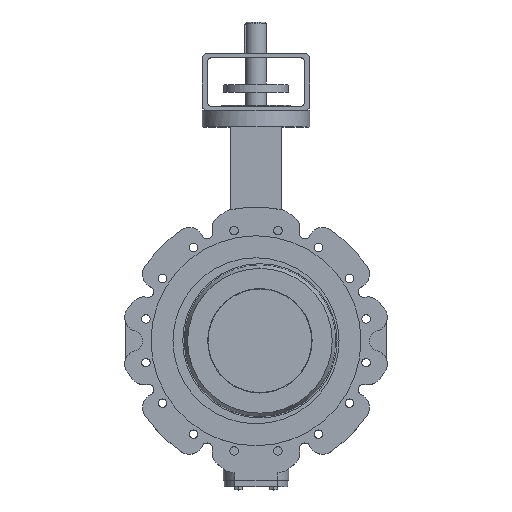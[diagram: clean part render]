
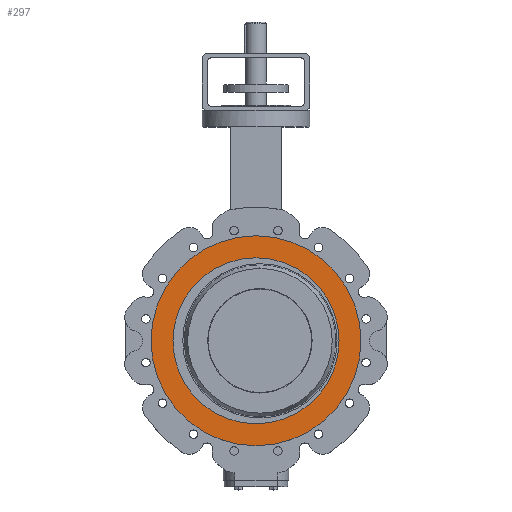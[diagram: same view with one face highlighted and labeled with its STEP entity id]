
A CAD part, top view. The second image highlights one B-rep face of the part: STEP entity #297.
In plain terms, the highlighted planar face has unit normal (0, 0, 1).
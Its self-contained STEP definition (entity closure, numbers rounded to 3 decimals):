
#297 = ADVANCED_FACE( '', ( #844, #845 ), #846, .T. );
#844 = FACE_BOUND( '', #1496, .T. );
#845 = FACE_OUTER_BOUND( '', #1497, .T. );
#846 = PLANE( '', #1498 );
#1496 = EDGE_LOOP( '', ( #3386, #3387, #3388 ) );
#1497 = EDGE_LOOP( '', ( #3389, #3390 ) );
#1498 = AXIS2_PLACEMENT_3D( '', #3391, #3392, #3393 );
#3386 = ORIENTED_EDGE( '', *, *, #4082, .F. );
#3387 = ORIENTED_EDGE( '', *, *, #4081, .F. );
#3388 = ORIENTED_EDGE( '', *, *, #4657, .F. );
#3389 = ORIENTED_EDGE( '', *, *, #4088, .T. );
#3390 = ORIENTED_EDGE( '', *, *, #4655, .T. );
#3391 = CARTESIAN_POINT( '', ( 0., 192.5, 63.5 ) );
#3392 = DIRECTION( '', ( 0., 0., 1. ) );
#3393 = DIRECTION( '', ( 0., 1., 0. ) );
#4081 = EDGE_CURVE( '', #4850, #4853, #4854, .T. );
#4082 = EDGE_CURVE( '', #4853, #4855, #4856, .T. );
#4088 = EDGE_CURVE( '', #4861, #4865, #4867, .T. );
#4655 = EDGE_CURVE( '', #4865, #4861, #5809, .T. );
#4657 = EDGE_CURVE( '', #4855, #4850, #5811, .T. );
#4850 = VERTEX_POINT( '', #6132 );
#4853 = VERTEX_POINT( '', #6136 );
#4854 = CIRCLE( '', #6137, 170. );
#4855 = VERTEX_POINT( '', #6138 );
#4856 = CIRCLE( '', #6139, 170. );
#4861 = VERTEX_POINT( '', #6145 );
#4865 = VERTEX_POINT( '', #6150 );
#4867 = CIRCLE( '', #6153, 215. );
#5809 = CIRCLE( '', #8005, 215. );
#5811 = CIRCLE( '', #8007, 170. );
#6132 = CARTESIAN_POINT( '', ( 170., 0., 63.5 ) );
#6136 = CARTESIAN_POINT( '', ( 0., 170., 63.5 ) );
#6137 = AXIS2_PLACEMENT_3D( '', #8511, #8512, #8513 );
#6138 = CARTESIAN_POINT( '', ( -170., 0., 63.5 ) );
#6139 = AXIS2_PLACEMENT_3D( '', #8514, #8515, #8516 );
#6145 = CARTESIAN_POINT( '', ( 0., 215., 63.5 ) );
#6150 = CARTESIAN_POINT( '', ( 0., -215., 63.5 ) );
#6153 = AXIS2_PLACEMENT_3D( '', #8526, #8527, #8528 );
#8005 = AXIS2_PLACEMENT_3D( '', #9569, #9570, #9571 );
#8007 = AXIS2_PLACEMENT_3D( '', #9575, #9576, #9577 );
#8511 = CARTESIAN_POINT( '', ( 0., 0., 63.5 ) );
#8512 = DIRECTION( '', ( 0., 0., 1. ) );
#8513 = DIRECTION( '', ( 0., 1., 0. ) );
#8514 = CARTESIAN_POINT( '', ( 0., 0., 63.5 ) );
#8515 = DIRECTION( '', ( 0., 0., 1. ) );
#8516 = DIRECTION( '', ( 0., 1., 0. ) );
#8526 = CARTESIAN_POINT( '', ( 0., 0., 63.5 ) );
#8527 = DIRECTION( '', ( 0., 0., 1. ) );
#8528 = DIRECTION( '', ( 0., 1., 0. ) );
#9569 = CARTESIAN_POINT( '', ( 0., 0., 63.5 ) );
#9570 = DIRECTION( '', ( 0., 0., 1. ) );
#9571 = DIRECTION( '', ( 0., 1., 0. ) );
#9575 = CARTESIAN_POINT( '', ( 0., 0., 63.5 ) );
#9576 = DIRECTION( '', ( 0., 0., 1. ) );
#9577 = DIRECTION( '', ( 0., 1., 0. ) );
